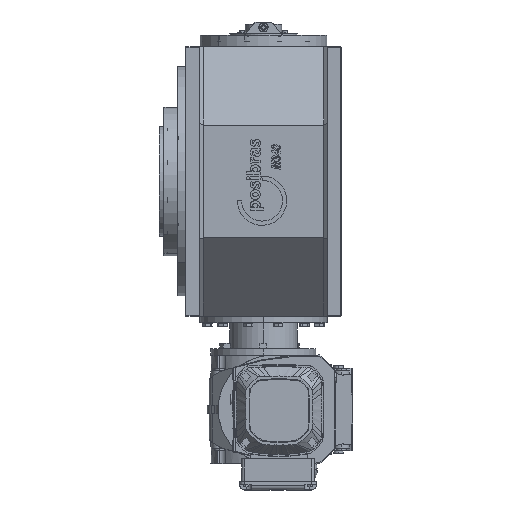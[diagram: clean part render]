
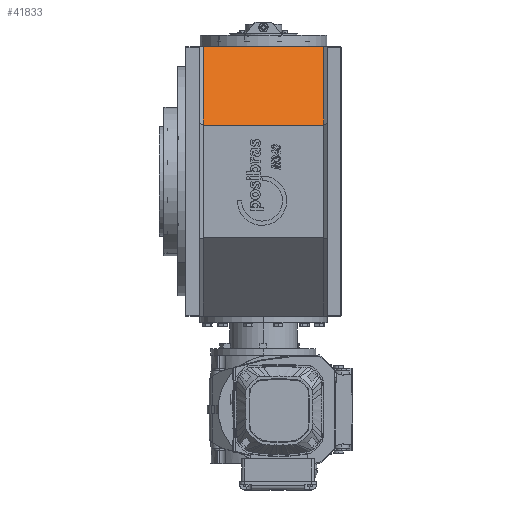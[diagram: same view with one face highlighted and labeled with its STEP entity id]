
A CAD part, left-side view. The second image highlights one B-rep face of the part: STEP entity #41833.
In plain terms, the highlighted planar face has unit normal (-0.707, 0, 0.707).
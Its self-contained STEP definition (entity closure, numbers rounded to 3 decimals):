
#1940 = VERTEX_POINT ( 'NONE', #77583 ) ;
#4443 = DIRECTION ( 'NONE',  ( 0., -1., 0. ) ) ;
#8650 = ORIENTED_EDGE ( 'NONE', *, *, #87755, .F. ) ;
#16355 = DIRECTION ( 'NONE',  ( -0.707, 0., -0.707 ) ) ;
#20132 = VERTEX_POINT ( 'NONE', #83550 ) ;
#24992 = VECTOR ( 'NONE', #35668, 1000. ) ;
#29642 = LINE ( 'NONE', #88326, #69513 ) ;
#29738 = EDGE_CURVE ( 'NONE', #1940, #67813, #100683, .T. ) ;
#32092 = CARTESIAN_POINT ( 'NONE',  ( -83.259, 26., 199. ) ) ;
#34762 = CARTESIAN_POINT ( 'NONE',  ( -83.259, 210., 199. ) ) ;
#35668 = DIRECTION ( 'NONE',  ( -0.707, 0., -0.707 ) ) ;
#41494 = DIRECTION ( 'NONE',  ( 0.707, 0., -0.707 ) ) ;
#41833 = ADVANCED_FACE ( 'NONE', ( #43690 ), #60397, .F. ) ;
#43690 = FACE_OUTER_BOUND ( 'NONE', #70133, .T. ) ;
#43898 = VECTOR ( 'NONE', #74980, 1000. ) ;
#48903 = LINE ( 'NONE', #32092, #92691 ) ;
#49931 = CARTESIAN_POINT ( 'NONE',  ( -199., 210., 83.259 ) ) ;
#54965 = CARTESIAN_POINT ( 'NONE',  ( -199., 26., 83.259 ) ) ;
#60397 = PLANE ( 'NONE',  #87493 ) ;
#61360 = CARTESIAN_POINT ( 'NONE',  ( -199., 204., 83.259 ) ) ;
#62730 = ORIENTED_EDGE ( 'NONE', *, *, #29738, .T. ) ;
#63590 = VERTEX_POINT ( 'NONE', #54965 ) ;
#63879 = LINE ( 'NONE', #49931, #43898 ) ;
#66387 = EDGE_CURVE ( 'NONE', #63590, #20132, #48903, .T. ) ;
#67813 = VERTEX_POINT ( 'NONE', #86732 ) ;
#69513 = VECTOR ( 'NONE', #4443, 1000. ) ;
#70133 = EDGE_LOOP ( 'NONE', ( #8650, #62730, #90146, #72533 ) ) ;
#72533 = ORIENTED_EDGE ( 'NONE', *, *, #66387, .T. ) ;
#73939 = DIRECTION ( 'NONE',  ( 0.707, 0., 0.707 ) ) ;
#74980 = DIRECTION ( 'NONE',  ( 0., -1., 0. ) ) ;
#77583 = CARTESIAN_POINT ( 'NONE',  ( -83.259, 204., 199. ) ) ;
#83550 = CARTESIAN_POINT ( 'NONE',  ( -83.259, 26., 199. ) ) ;
#86732 = CARTESIAN_POINT ( 'NONE',  ( -199., 204., 83.259 ) ) ;
#87493 = AXIS2_PLACEMENT_3D ( 'NONE', #34762, #41494, #16355 ) ;
#87755 = EDGE_CURVE ( 'NONE', #1940, #20132, #29642, .T. ) ;
#88326 = CARTESIAN_POINT ( 'NONE',  ( -83.259, 210., 199. ) ) ;
#90146 = ORIENTED_EDGE ( 'NONE', *, *, #92737, .T. ) ;
#92691 = VECTOR ( 'NONE', #73939, 1000. ) ;
#92737 = EDGE_CURVE ( 'NONE', #67813, #63590, #63879, .T. ) ;
#100683 = LINE ( 'NONE', #61360, #24992 ) ;
